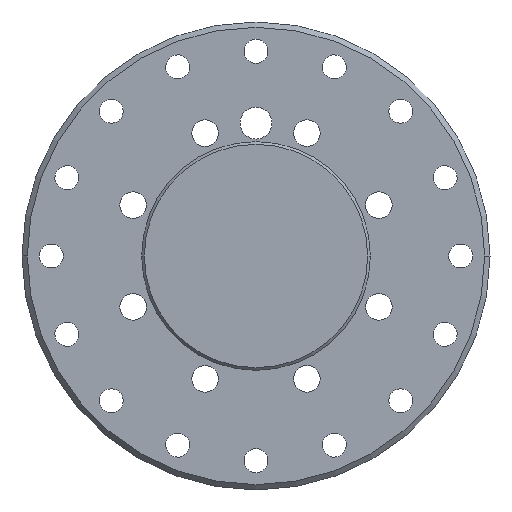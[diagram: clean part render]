
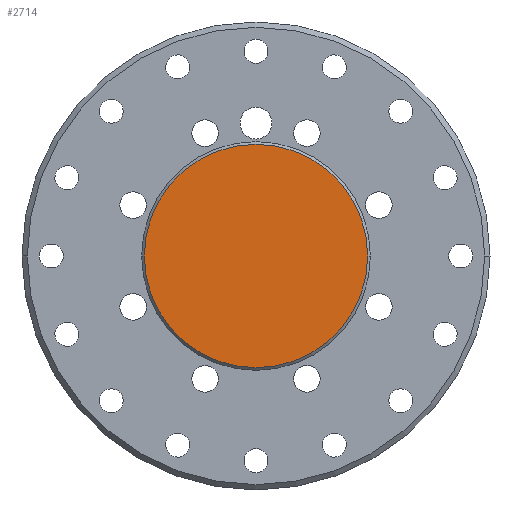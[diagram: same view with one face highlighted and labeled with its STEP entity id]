
A CAD part, front view. The second image highlights one B-rep face of the part: STEP entity #2714.
In plain terms, the highlighted planar face has unit normal (0, -1, 0).
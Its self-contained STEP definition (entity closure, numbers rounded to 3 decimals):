
#244 = AXIS2_PLACEMENT_3D ( 'NONE', #2738, #979, #992 ) ;
#334 = DIRECTION ( 'NONE',  ( -1., 0., 0. ) ) ;
#430 = AXIS2_PLACEMENT_3D ( 'NONE', #910, #2711, #334 ) ;
#617 = PLANE ( 'NONE',  #430 ) ;
#910 = CARTESIAN_POINT ( 'NONE',  ( 0., 1074.502, 1359.5 ) ) ;
#979 = DIRECTION ( 'NONE',  ( 0., -1., 0. ) ) ;
#992 = DIRECTION ( 'NONE',  ( -1., 0., 0. ) ) ;
#1000 = CARTESIAN_POINT ( 'NONE',  ( -21., 1074.502, 1338. ) ) ;
#1093 = VERTEX_POINT ( 'NONE', #2875 ) ;
#1209 = CIRCLE ( 'NONE', #244, 21. ) ;
#1508 = EDGE_LOOP ( 'NONE', ( #1949, #1542 ) ) ;
#1542 = ORIENTED_EDGE ( 'NONE', *, *, #2866, .T. ) ;
#1949 = ORIENTED_EDGE ( 'NONE', *, *, #3727, .T. ) ;
#2022 = DIRECTION ( 'NONE',  ( -1., 0., 0. ) ) ;
#2281 = DIRECTION ( 'NONE',  ( 0., -1., 0. ) ) ;
#2347 = FACE_OUTER_BOUND ( 'NONE', #1508, .T. ) ;
#2534 = AXIS2_PLACEMENT_3D ( 'NONE', #3779, #2281, #2022 ) ;
#2711 = DIRECTION ( 'NONE',  ( 0., 1., 0. ) ) ;
#2714 = ADVANCED_FACE ( 'NONE', ( #2347 ), #617, .F. ) ;
#2738 = CARTESIAN_POINT ( 'NONE',  ( 0., 1074.502, 1338. ) ) ;
#2866 = EDGE_CURVE ( 'NONE', #1093, #3466, #1209, .T. ) ;
#2875 = CARTESIAN_POINT ( 'NONE',  ( 21., 1074.502, 1338. ) ) ;
#3029 = CIRCLE ( 'NONE', #2534, 21. ) ;
#3466 = VERTEX_POINT ( 'NONE', #1000 ) ;
#3727 = EDGE_CURVE ( 'NONE', #3466, #1093, #3029, .T. ) ;
#3779 = CARTESIAN_POINT ( 'NONE',  ( 0., 1074.502, 1338. ) ) ;
